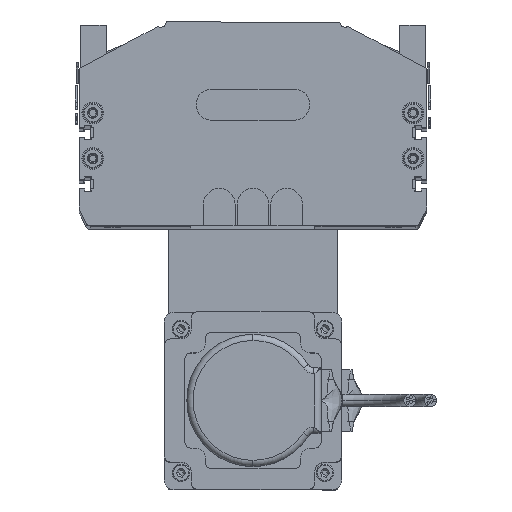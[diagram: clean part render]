
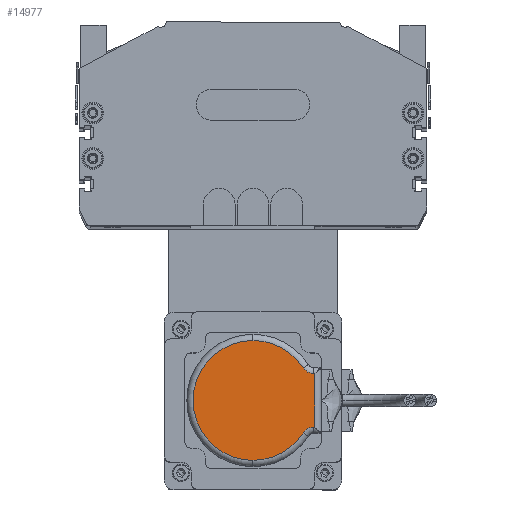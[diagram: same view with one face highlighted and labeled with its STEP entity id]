
A CAD part, top view. The second image highlights one B-rep face of the part: STEP entity #14977.
In plain terms, the highlighted planar face has unit normal (0, 0, 1).
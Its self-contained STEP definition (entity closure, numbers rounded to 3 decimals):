
#14923 = EDGE_CURVE ( 'NONE', #14924, #14948, #29376, .T. ) ;
#14924 = VERTEX_POINT ( 'NONE', #29360 ) ;
#14932 = VERTEX_POINT ( 'NONE', #29347 ) ;
#14948 = VERTEX_POINT ( 'NONE', #29483 ) ;
#14959 = VERTEX_POINT ( 'NONE', #29042 ) ;
#14961 = ORIENTED_EDGE ( 'NONE', *, *, #14972, .T. ) ;
#14962 = EDGE_CURVE ( 'NONE', #14983, #14979, #29345, .T. ) ;
#14964 = ORIENTED_EDGE ( 'NONE', *, *, #14962, .T. ) ;
#14965 = EDGE_CURVE ( 'NONE', #14979, #14974, #29629, .T. ) ;
#14969 = EDGE_CURVE ( 'NONE', #14924, #14974, #29605, .T. ) ;
#14970 = ORIENTED_EDGE ( 'NONE', *, *, #14985, .F. ) ;
#14972 = EDGE_CURVE ( 'NONE', #14959, #14983, #29610, .T. ) ;
#14974 = VERTEX_POINT ( 'NONE', #29596 ) ;
#14975 = ORIENTED_EDGE ( 'NONE', *, *, #14965, .T. ) ;
#14976 = EDGE_LOOP ( 'NONE', ( #14978, #14981, #14980, #14984, #14970, #14961, #14964, #14975 ) ) ;
#14977 = ADVANCED_FACE ( 'NONE', ( #29576 ), #29622, .T. ) ;
#14978 = ORIENTED_EDGE ( 'NONE', *, *, #14969, .F. ) ;
#14979 = VERTEX_POINT ( 'NONE', #29572 ) ;
#14980 = ORIENTED_EDGE ( 'NONE', *, *, #14992, .T. ) ;
#14981 = ORIENTED_EDGE ( 'NONE', *, *, #14923, .T. ) ;
#14982 = EDGE_CURVE ( 'NONE', #14932, #14986, #29568, .T. ) ;
#14983 = VERTEX_POINT ( 'NONE', #29582 ) ;
#14984 = ORIENTED_EDGE ( 'NONE', *, *, #14982, .T. ) ;
#14985 = EDGE_CURVE ( 'NONE', #14959, #14986, #29683, .T. ) ;
#14986 = VERTEX_POINT ( 'NONE', #29680 ) ;
#14992 = EDGE_CURVE ( 'NONE', #14948, #14932, #29633, .T. ) ;
#29042 = CARTESIAN_POINT ( 'NONE',  ( 46., 62.394, 26. ) ) ;
#29344 = CARTESIAN_POINT ( 'NONE',  ( 17.5, 63., 26. ) ) ;
#29345 = LINE ( 'NONE', #29344, #29555 ) ;
#29347 = CARTESIAN_POINT ( 'NONE',  ( 62., 33., 26. ) ) ;
#29352 = DIRECTION ( 'NONE',  ( 1., 0., 0. ) ) ;
#29353 = DIRECTION ( 'NONE',  ( 0., 0., 1. ) ) ;
#29354 = CARTESIAN_POINT ( 'NONE',  ( 33., 33., 26. ) ) ;
#29356 = AXIS2_PLACEMENT_3D ( 'NONE', #29354, #29353, #29352 ) ;
#29360 = CARTESIAN_POINT ( 'NONE',  ( 17.257, 57.355, 26. ) ) ;
#29376 = CIRCLE ( 'NONE', #29356, 29. ) ;
#29483 = CARTESIAN_POINT ( 'NONE',  ( 4., 33., 26. ) ) ;
#29549 = DIRECTION ( 'NONE',  ( -1., 0., 0. ) ) ;
#29555 = VECTOR ( 'NONE', #29549, 1000. ) ;
#29562 = DIRECTION ( 'NONE',  ( 1., 0., 0. ) ) ;
#29564 = DIRECTION ( 'NONE',  ( 0., 0., 1. ) ) ;
#29565 = CARTESIAN_POINT ( 'NONE',  ( 33., 33., 26. ) ) ;
#29568 = CIRCLE ( 'NONE', #29692, 29. ) ;
#29570 = DIRECTION ( 'NONE',  ( 1., 0., 0. ) ) ;
#29572 = CARTESIAN_POINT ( 'NONE',  ( 20., 63., 26. ) ) ;
#29576 = FACE_OUTER_BOUND ( 'NONE', #14976, .T. ) ;
#29578 = DIRECTION ( 'NONE',  ( 0., 1., 0. ) ) ;
#29580 = VECTOR ( 'NONE', #29578, 1000. ) ;
#29582 = CARTESIAN_POINT ( 'NONE',  ( 46., 63., 26. ) ) ;
#29592 = CARTESIAN_POINT ( 'NONE',  ( 46., 33., 26. ) ) ;
#29596 = CARTESIAN_POINT ( 'NONE',  ( 20., 62.394, 26. ) ) ;
#29598 = DIRECTION ( 'NONE',  ( 1., 0., 0. ) ) ;
#29600 = DIRECTION ( 'NONE',  ( 0., 0., 1. ) ) ;
#29601 = CARTESIAN_POINT ( 'NONE',  ( 14., 62.394, 26. ) ) ;
#29603 = AXIS2_PLACEMENT_3D ( 'NONE', #29601, #29600, #29598 ) ;
#29605 = CIRCLE ( 'NONE', #29603, 6. ) ;
#29610 = LINE ( 'NONE', #29592, #29580 ) ;
#29617 = AXIS2_PLACEMENT_3D ( 'NONE', #29565, #29564, #29562 ) ;
#29622 = PLANE ( 'NONE',  #29617 ) ;
#29623 = DIRECTION ( 'NONE',  ( 0., -1., 0. ) ) ;
#29626 = VECTOR ( 'NONE', #29623, 1000. ) ;
#29628 = CARTESIAN_POINT ( 'NONE',  ( 20., 33., 26. ) ) ;
#29629 = LINE ( 'NONE', #29628, #29626 ) ;
#29633 = CIRCLE ( 'NONE', #29655, 29. ) ;
#29655 = AXIS2_PLACEMENT_3D ( 'NONE', #29672, #29682, #29570 ) ;
#29672 = CARTESIAN_POINT ( 'NONE',  ( 33., 33., 26. ) ) ;
#29674 = DIRECTION ( 'NONE',  ( 1., 0., 0. ) ) ;
#29675 = DIRECTION ( 'NONE',  ( 0., 0., 1. ) ) ;
#29676 = CARTESIAN_POINT ( 'NONE',  ( 52., 62.394, 26. ) ) ;
#29680 = CARTESIAN_POINT ( 'NONE',  ( 48.743, 57.355, 26. ) ) ;
#29682 = DIRECTION ( 'NONE',  ( 0., 0., 1. ) ) ;
#29683 = CIRCLE ( 'NONE', #29697, 6. ) ;
#29687 = DIRECTION ( 'NONE',  ( 1., 0., 0. ) ) ;
#29689 = DIRECTION ( 'NONE',  ( 0., 0., 1. ) ) ;
#29690 = CARTESIAN_POINT ( 'NONE',  ( 33., 33., 26. ) ) ;
#29692 = AXIS2_PLACEMENT_3D ( 'NONE', #29690, #29689, #29687 ) ;
#29697 = AXIS2_PLACEMENT_3D ( 'NONE', #29676, #29675, #29674 ) ;
